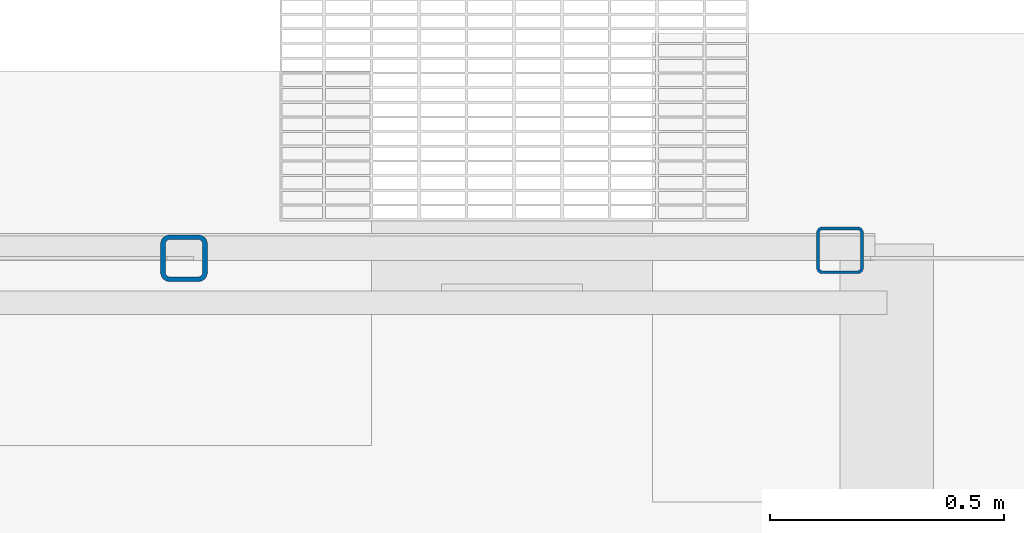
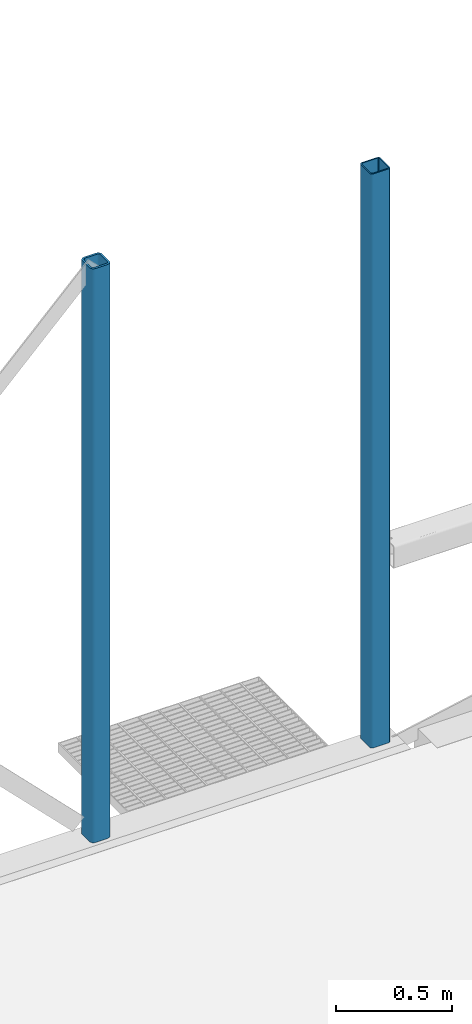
# One storey, part 5 of 18: 2 columns.
"""IFC2X3 building model written with IfcOpenShell, lengths in millimetres."""

from ifc_helpers import new_model, entity, si_unit, converted_unit, derived_unit, direction, frame, frame_2d, origin, place, context, subcontext, project, spatial, polyline, circle_curve, parameter, trimmed, segment, composite_curve, outline, extrude, source, transform, mapped, material, type_object, type_shapes, element, save


model = new_model("IFC2X3")

# Units and contexts
model_context = context("Model", 3, precision=0.01, world=origin(), true_north=direction((6.12303176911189e-17, 1.0)))
body_context = subcontext(model_context, "Body", "Model", "MODEL_VIEW")
ifc_project = project(units=[si_unit("LENGTHUNIT", "METRE", prefix="MILLI"), si_unit("AREAUNIT", "SQUARE_METRE"), si_unit("VOLUMEUNIT", "CUBIC_METRE"), converted_unit("PLANEANGLEUNIT", "DEGREE", entity("IfcRatioMeasure", 0.0174532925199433), si_unit("PLANEANGLEUNIT", "RADIAN"), dimensions=[0, 0, 0, 0, 0, 0, 0]), si_unit("MASSUNIT", "GRAM", prefix="KILO"), derived_unit("MASSDENSITYUNIT", [(si_unit("MASSUNIT", "GRAM", prefix="KILO"), 1), (si_unit("LENGTHUNIT", "METRE"), -3)]), si_unit("TIMEUNIT", "SECOND"), si_unit("FREQUENCYUNIT", "HERTZ"), si_unit("THERMODYNAMICTEMPERATUREUNIT", "DEGREE_CELSIUS"), derived_unit("THERMALTRANSMITTANCEUNIT", [(si_unit("MASSUNIT", "GRAM", prefix="KILO"), 1), (si_unit("THERMODYNAMICTEMPERATUREUNIT", "KELVIN"), -1), (si_unit("TIMEUNIT", "SECOND"), -3)]), derived_unit("VOLUMETRICFLOWRATEUNIT", [(si_unit("LENGTHUNIT", "METRE"), 3), (si_unit("TIMEUNIT", "SECOND"), -1)]), si_unit("ELECTRICCURRENTUNIT", "AMPERE"), si_unit("ELECTRICVOLTAGEUNIT", "VOLT"), si_unit("POWERUNIT", "WATT"), si_unit("FORCEUNIT", "NEWTON", prefix="KILO"), si_unit("ILLUMINANCEUNIT", "LUX"), si_unit("LUMINOUSFLUXUNIT", "LUMEN"), si_unit("LUMINOUSINTENSITYUNIT", "CANDELA"), derived_unit("USERDEFINED", [(si_unit("MASSUNIT", "GRAM", prefix="KILO"), -1), (si_unit("LENGTHUNIT", "METRE"), -2), (si_unit("TIMEUNIT", "SECOND"), 3), (si_unit("LUMINOUSFLUXUNIT", "LUMEN"), 1)]), derived_unit("LINEARVELOCITYUNIT", [(si_unit("LENGTHUNIT", "METRE"), 1), (si_unit("TIMEUNIT", "SECOND"), -1)]), si_unit("PRESSUREUNIT", "PASCAL"), derived_unit("USERDEFINED", [(si_unit("LENGTHUNIT", "METRE"), -2), (si_unit("MASSUNIT", "GRAM", prefix="KILO"), 1), (si_unit("TIMEUNIT", "SECOND"), -2)])], contexts=[model_context])

# Site, building, storey
site_placement = place(None, frame((0.0, 0.0, 101000.0)))
site = spatial("IfcSite", under=ifc_project, at=site_placement, Name="Default", CompositionType="ELEMENT")
building_placement = place(site_placement, origin())
building = spatial("IfcBuilding", under=site, at=building_placement, CompositionType="ELEMENT")
storey_placement = place(building_placement, origin())
storey = spatial("IfcBuildingStorey", under=building, at=storey_placement, Name="01", CompositionType="ELEMENT", Elevation=8.9295595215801e-10)

# Columns
ifc_material = material(Name="S355")
column_type_1 = type_object("IfcColumnType", Name="HUP 100x100x10", PredefinedType="COLUMN", material=ifc_material)
shared_shape_1 = source(origin(), body_context, "Body", "SweptSolid", [
    extrude(outline(composite_curve([segment(polyline([(-30.0, -50.0), (30.0, -50.0)]), True, "CONTINUOUS"), segment(trimmed(circle_curve(frame_2d((30.0, -30.0), x_axis=(-1.0, 0.0)), 20.0000000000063), [parameter(90.0000000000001)], [parameter(180.0)], True, "PARAMETER"), True, "CONTINUOUS"), segment(polyline([(50.0, -30.0), (50.0, 30.0)]), True, "CONTINUOUS"), segment(trimmed(circle_curve(frame_2d((30.0, 30.0), x_axis=(-1.0, 0.0)), 20.0000000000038), [parameter(180.0)], [parameter(270.0)], True, "PARAMETER"), True, "CONTINUOUS"), segment(polyline([(30.0, 50.0), (-30.0, 50.0)]), True, "CONTINUOUS"), segment(trimmed(circle_curve(frame_2d((-30.0, 30.0), x_axis=(-1.0, 0.0)), 20.0000000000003), [parameter(270.0)], [parameter(360.0)], True, "PARAMETER"), True, "CONTINUOUS"), segment(polyline([(-50.0, 30.0), (-50.0, -30.0)]), True, "CONTINUOUS"), segment(trimmed(circle_curve(frame_2d((-30.0, -30.0), x_axis=(-1.0, 0.0)), 19.9999999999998), [parameter(360.0)], [parameter(89.9999999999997)], True, "PARAMETER"), True, "CONTINUOUS")], self_intersect=False), holes=[composite_curve([segment(trimmed(circle_curve(frame_2d((-30.0, -30.0), x_axis=(-1.0, 0.0)), 9.99999999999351), [parameter(0.0)], [parameter(90.0)], True, "PARAMETER"), False, "CONTINUOUS"), segment(polyline([(-40.0, -30.0), (-40.0, 30.0)]), True, "CONTINUOUS"), segment(trimmed(circle_curve(frame_2d((-30.0, 30.0), x_axis=(-1.0, 0.0)), 9.99999999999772), [parameter(270.0)], [parameter(0.0)], True, "PARAMETER"), False, "CONTINUOUS"), segment(polyline([(-30.0, 40.0), (30.0, 40.0)]), True, "CONTINUOUS"), segment(trimmed(circle_curve(frame_2d((30.0, 30.0), x_axis=(-1.0, 0.0)), 10.000000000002), [parameter(180.0)], [parameter(270.0)], True, "PARAMETER"), False, "CONTINUOUS"), segment(polyline([(40.0, 30.0), (40.0, -30.0)]), True, "CONTINUOUS"), segment(trimmed(circle_curve(frame_2d((30.0, -30.0), x_axis=(-1.0, 0.0)), 10.0), [parameter(90.0000000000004)], [parameter(180.0)], True, "PARAMETER"), False, "CONTINUOUS"), segment(polyline([(30.0, -40.0), (-30.0, -40.0)]), True, "CONTINUOUS")], self_intersect=False)]), frame((9786.26449698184, 44337.9507529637, 0.0), z_axis=(0.0, 0.0, 1.0), x_axis=(-1.0, 0.0, 0.0)), (0.0, 0.0, 1.0), 3019.99999999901),
])
type_shapes(column_type_1, [shared_shape_1])
column_1_placement = place(storey_placement, origin())
element("IfcColumn", 1, at=column_1_placement, inside=storey, type_object=column_type_1, material=ifc_material, Name="Søyle HUP:HUP 100x100x10", ObjectType="HUP 100x100x10", context=body_context, shape_type="MappedRepresentation", body=[
    mapped(shared_shape_1, transform((0.0, 0.0, 0.0), scale=1.0)),
])
column_type_2 = type_object("IfcColumnType", Name="HUP 100x100x6.3", PredefinedType="COLUMN", material=ifc_material)
shared_shape_2 = source(origin(), body_context, "Body", "SweptSolid", [
    extrude(outline(composite_curve([segment(polyline([(-37.4000000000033, -50.0), (37.4000000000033, -50.0)]), True, "CONTINUOUS"), segment(trimmed(circle_curve(frame_2d((37.4000000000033, -37.4000000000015), x_axis=(-1.0, 0.0)), 12.6000000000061), [parameter(90.0000000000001)], [parameter(180.0)], True, "PARAMETER"), True, "CONTINUOUS"), segment(polyline([(50.0, -37.4000000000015), (50.0, 37.4000000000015)]), True, "CONTINUOUS"), segment(trimmed(circle_curve(frame_2d((37.4000000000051, 37.4000000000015), x_axis=(-1.0, 0.0)), 12.6000000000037), [parameter(180.0)], [parameter(270.0)], True, "PARAMETER"), True, "CONTINUOUS"), segment(polyline([(37.4000000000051, 50.0), (-37.4000000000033, 50.0)]), True, "CONTINUOUS"), segment(trimmed(circle_curve(frame_2d((-37.4000000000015, 37.4000000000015), x_axis=(-1.0, 0.0)), 12.6000000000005), [parameter(270.0)], [parameter(360.0)], True, "PARAMETER"), True, "CONTINUOUS"), segment(polyline([(-50.0, 37.4000000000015), (-50.0, -37.4000000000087)]), True, "CONTINUOUS"), segment(trimmed(circle_curve(frame_2d((-37.4000000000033, -37.4000000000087), x_axis=(-1.0, 0.0)), 12.5999999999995), [parameter(360.0)], [parameter(89.9999999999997)], True, "PARAMETER"), True, "CONTINUOUS")], self_intersect=False), holes=[composite_curve([segment(trimmed(circle_curve(frame_2d((-37.4000000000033, -37.4000000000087), x_axis=(-1.0, 0.0)), 6.2999999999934), [parameter(0.0)], [parameter(90.0)], True, "PARAMETER"), False, "CONTINUOUS"), segment(polyline([(-43.6999999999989, -37.4000000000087), (-43.6999999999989, 37.4000000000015)]), True, "CONTINUOUS"), segment(trimmed(circle_curve(frame_2d((-37.3999999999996, 37.4000000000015), x_axis=(-1.0, 0.0)), 6.29999999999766), [parameter(270.0)], [parameter(360.0)], True, "PARAMETER"), False, "CONTINUOUS"), segment(polyline([(-37.3999999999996, 43.6999999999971), (37.4000000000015, 43.6999999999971)]), True, "CONTINUOUS"), segment(trimmed(circle_curve(frame_2d((37.4000000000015, 37.4000000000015), x_axis=(-1.0, 0.0)), 6.30000000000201), [parameter(180.0)], [parameter(270.0)], True, "PARAMETER"), False, "CONTINUOUS"), segment(polyline([(43.7000000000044, 37.4000000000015), (43.7000000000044, -37.4000000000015)]), True, "CONTINUOUS"), segment(trimmed(circle_curve(frame_2d((37.4000000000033, -37.4000000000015), x_axis=(-1.0, 0.0)), 6.30000000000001), [parameter(90.0000000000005)], [parameter(180.0)], True, "PARAMETER"), False, "CONTINUOUS"), segment(polyline([(37.4000000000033, -43.6999999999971), (-37.4000000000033, -43.6999999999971)]), True, "CONTINUOUS")], self_intersect=False)]), frame((11186.2644969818, 44354.9335651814, 0.0), z_axis=(0.0, 0.0, 1.0), x_axis=(-1.0, 0.0, 0.0)), (0.0, 0.0, 1.0), 3019.99999999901),
])
type_shapes(column_type_2, [shared_shape_2])
column_2_placement = place(storey_placement, origin())
element("IfcColumn", 2, at=column_2_placement, inside=storey, type_object=column_type_2, material=ifc_material, Name="Søyle HUP:HUP 100x100x6.3", ObjectType="HUP 100x100x6.3", context=body_context, shape_type="MappedRepresentation", body=[
    mapped(shared_shape_2, transform((0.0, 0.0, 0.0), scale=1.0)),
])

save(model, "model.ifc")
